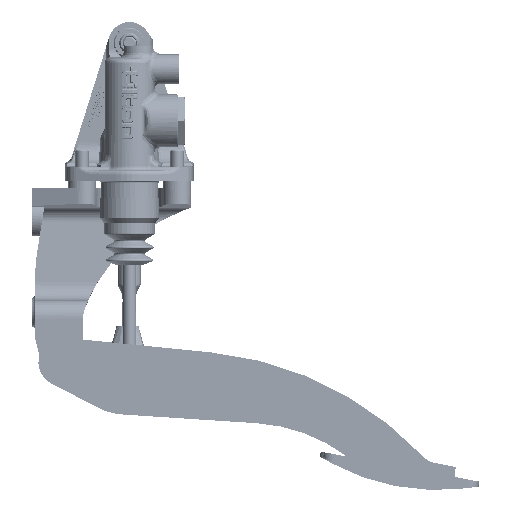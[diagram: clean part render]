
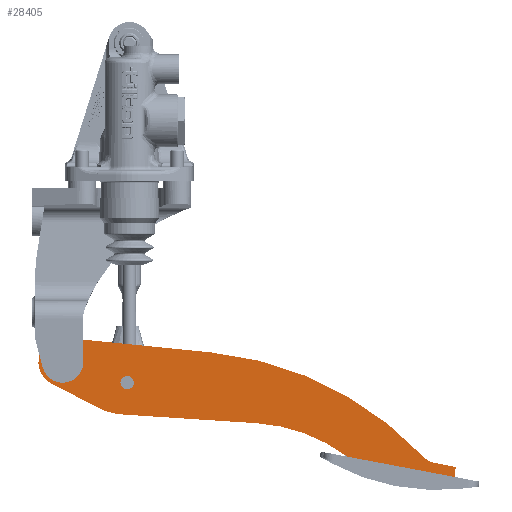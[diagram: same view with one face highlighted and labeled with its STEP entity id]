
A CAD part, left-side view. The second image highlights one B-rep face of the part: STEP entity #28405.
In plain terms, the highlighted planar face has unit normal (-1, 0, 0).
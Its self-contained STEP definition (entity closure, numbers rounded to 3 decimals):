
#3092=CIRCLE('',#37505,14.605);
#3093=CIRCLE('',#37506,38.1);
#3094=CIRCLE('',#37507,101.6);
#3095=CIRCLE('',#37508,12.7);
#3096=CIRCLE('',#37509,203.2);
#3097=CIRCLE('',#37510,12.446);
#3098=CIRCLE('',#37511,4.013);
#3932=ORIENTED_EDGE('',*,*,#12690,.F.);
#3933=ORIENTED_EDGE('',*,*,#12691,.T.);
#3934=ORIENTED_EDGE('',*,*,#12692,.T.);
#3935=ORIENTED_EDGE('',*,*,#12693,.T.);
#3936=ORIENTED_EDGE('',*,*,#12694,.T.);
#3937=ORIENTED_EDGE('',*,*,#12695,.F.);
#3938=ORIENTED_EDGE('',*,*,#12696,.F.);
#3939=ORIENTED_EDGE('',*,*,#12697,.T.);
#3940=ORIENTED_EDGE('',*,*,#12698,.T.);
#3941=ORIENTED_EDGE('',*,*,#12699,.F.);
#3942=ORIENTED_EDGE('',*,*,#12700,.T.);
#3943=ORIENTED_EDGE('',*,*,#12701,.T.);
#3944=ORIENTED_EDGE('',*,*,#12702,.F.);
#3945=ORIENTED_EDGE('',*,*,#12703,.T.);
#3946=ORIENTED_EDGE('',*,*,#12704,.F.);
#12690=EDGE_CURVE('',#17069,#17070,#19996,.T.);
#12691=EDGE_CURVE('',#17069,#17071,#3092,.T.);
#12692=EDGE_CURVE('',#17071,#17072,#19997,.T.);
#12693=EDGE_CURVE('',#17072,#17073,#3093,.T.);
#12694=EDGE_CURVE('',#17073,#17074,#19998,.T.);
#12695=EDGE_CURVE('',#17075,#17074,#3094,.T.);
#12696=EDGE_CURVE('',#17076,#17075,#19999,.T.);
#12697=EDGE_CURVE('',#17076,#17077,#20000,.T.);
#12698=EDGE_CURVE('',#17077,#17078,#20001,.T.);
#12699=EDGE_CURVE('',#17079,#17078,#3095,.T.);
#12700=EDGE_CURVE('',#17079,#17080,#3096,.T.);
#12701=EDGE_CURVE('',#17080,#17081,#20002,.T.);
#12702=EDGE_CURVE('',#17082,#17081,#20003,.T.);
#12703=EDGE_CURVE('',#17082,#17070,#3097,.T.);
#12704=EDGE_CURVE('',#17083,#17083,#3098,.T.);
#17069=VERTEX_POINT('',#46434);
#17070=VERTEX_POINT('',#46435);
#17071=VERTEX_POINT('',#46437);
#17072=VERTEX_POINT('',#46439);
#17073=VERTEX_POINT('',#46441);
#17074=VERTEX_POINT('',#46443);
#17075=VERTEX_POINT('',#46445);
#17076=VERTEX_POINT('',#46447);
#17077=VERTEX_POINT('',#46449);
#17078=VERTEX_POINT('',#46451);
#17079=VERTEX_POINT('',#46453);
#17080=VERTEX_POINT('',#46455);
#17081=VERTEX_POINT('',#46457);
#17082=VERTEX_POINT('',#46459);
#17083=VERTEX_POINT('',#46462);
#19996=LINE('',#46433,#21655);
#19997=LINE('',#46438,#21656);
#19998=LINE('',#46442,#21657);
#19999=LINE('',#46446,#21658);
#20000=LINE('',#46448,#21659);
#20001=LINE('',#46450,#21660);
#20002=LINE('',#46456,#21661);
#20003=LINE('',#46458,#21662);
#21655=VECTOR('',#39930,1000.);
#21656=VECTOR('',#39933,1000.);
#21657=VECTOR('',#39936,1000.);
#21658=VECTOR('',#39939,1000.);
#21659=VECTOR('',#39940,1000.);
#21660=VECTOR('',#39941,1000.);
#21661=VECTOR('',#39946,1000.);
#21662=VECTOR('',#39947,1000.);
#23314=EDGE_LOOP('',(#3932,#3933,#3934,#3935,#3936,#3937,#3938,#3939,#3940,
#3941,#3942,#3943,#3944,#3945));
#23315=EDGE_LOOP('',(#3946));
#25512=FACE_BOUND('',#23314,.T.);
#25513=FACE_BOUND('',#23315,.T.);
#27714=PLANE('',#37504);
#28405=ADVANCED_FACE('',(#25512,#25513),#27714,.T.);
#37504=AXIS2_PLACEMENT_3D('',#46432,#39928,#39929);
#37505=AXIS2_PLACEMENT_3D('',#46436,#39931,#39932);
#37506=AXIS2_PLACEMENT_3D('',#46440,#39934,#39935);
#37507=AXIS2_PLACEMENT_3D('',#46444,#39937,#39938);
#37508=AXIS2_PLACEMENT_3D('',#46452,#39942,#39943);
#37509=AXIS2_PLACEMENT_3D('',#46454,#39944,#39945);
#37510=AXIS2_PLACEMENT_3D('',#46460,#39948,#39949);
#37511=AXIS2_PLACEMENT_3D('',#46461,#39950,#39951);
#39928=DIRECTION('',(-1.,0.,0.));
#39929=DIRECTION('',(0.,0.998,0.065));
#39930=DIRECTION('',(0.,-0.259,-0.966));
#39931=DIRECTION('',(-1.,0.,0.));
#39932=DIRECTION('',(0.,0.998,0.065));
#39933=DIRECTION('',(0.,-0.887,-0.462));
#39934=DIRECTION('',(-1.,0.,0.));
#39935=DIRECTION('',(0.,0.998,0.065));
#39936=DIRECTION('',(0.,-0.998,-0.065));
#39937=DIRECTION('',(-1.,0.,0.));
#39938=DIRECTION('',(0.,0.998,0.065));
#39939=DIRECTION('',(0.,0.983,0.186));
#39940=DIRECTION('',(0.,-0.065,0.998));
#39941=DIRECTION('',(0.,0.983,0.186));
#39942=DIRECTION('',(-1.,0.,0.));
#39943=DIRECTION('',(0.,0.998,0.065));
#39944=DIRECTION('',(-1.,0.,0.));
#39945=DIRECTION('',(0.,0.998,0.065));
#39946=DIRECTION('',(0.,0.995,0.099));
#39947=DIRECTION('',(0.,0.,1.));
#39948=DIRECTION('',(1.,0.,0.));
#39949=DIRECTION('',(0.,0.,-1.));
#39950=DIRECTION('',(-1.,0.,0.));
#39951=DIRECTION('',(0.,0.998,0.065));
#46432=CARTESIAN_POINT('',(-174.498,-252.335,-195.409));
#46433=CARTESIAN_POINT('',(-174.498,11.968,-111.933));
#46434=CARTESIAN_POINT('',(-174.498,13.946,-104.551));
#46435=CARTESIAN_POINT('',(-174.498,11.968,-111.933));
#46436=CARTESIAN_POINT('',(-174.498,-0.054,-108.712));
#46437=CARTESIAN_POINT('',(-174.498,6.686,-121.669));
#46438=CARTESIAN_POINT('',(-174.498,6.686,-121.669));
#46439=CARTESIAN_POINT('',(-174.498,-21.066,-136.106));
#46440=CARTESIAN_POINT('',(-174.498,-38.649,-102.306));
#46441=CARTESIAN_POINT('',(-174.498,-36.184,-140.326));
#46442=CARTESIAN_POINT('',(-174.498,-116.909,-145.56));
#46443=CARTESIAN_POINT('',(-174.498,-116.909,-145.56));
#46444=CARTESIAN_POINT('',(-174.498,-110.335,-246.947));
#46445=CARTESIAN_POINT('',(-174.498,-171.279,-165.656));
#46446=CARTESIAN_POINT('',(-174.498,-254.969,-181.484));
#46447=CARTESIAN_POINT('',(-174.498,-236.101,-177.915));
#46448=CARTESIAN_POINT('',(-174.498,-235.883,-181.273));
#46449=CARTESIAN_POINT('',(-174.498,-236.494,-171.847));
#46450=CARTESIAN_POINT('',(-174.498,-236.494,-171.847));
#46451=CARTESIAN_POINT('',(-174.498,-223.964,-169.477));
#46452=CARTESIAN_POINT('',(-174.498,-226.324,-156.998));
#46453=CARTESIAN_POINT('',(-174.498,-217.087,-165.714));
#46454=CARTESIAN_POINT('',(-174.498,-69.296,-305.171));
#46455=CARTESIAN_POINT('',(-174.498,-89.512,-102.979));
#46456=CARTESIAN_POINT('',(-174.498,-1.507,-94.179));
#46457=CARTESIAN_POINT('',(-174.498,-12.5,-95.279));
#46458=CARTESIAN_POINT('',(-174.498,-12.5,-85.09));
#46459=CARTESIAN_POINT('',(-174.498,-12.5,-108.712));
#46460=CARTESIAN_POINT('',(-174.498,-0.054,-108.712));
#46461=CARTESIAN_POINT('',(-174.498,-38.827,-121.153));
#46462=CARTESIAN_POINT('',(-174.498,-34.823,-120.893));
